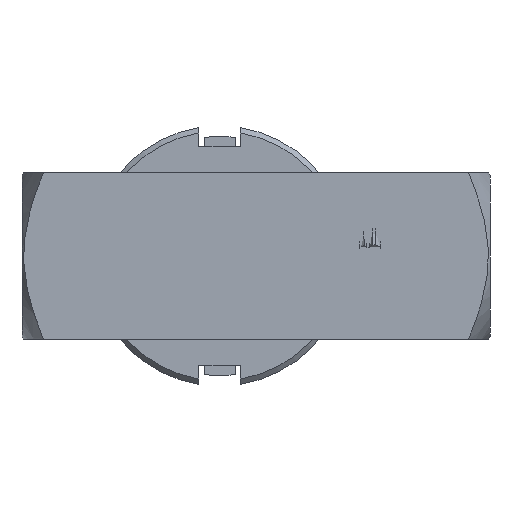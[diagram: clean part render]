
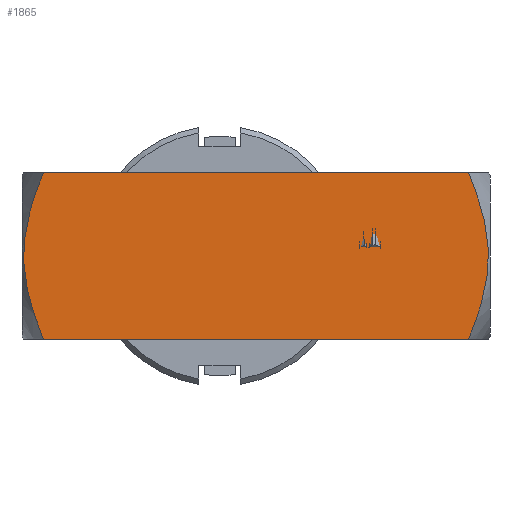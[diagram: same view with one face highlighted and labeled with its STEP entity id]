
A CAD part, front view. The second image highlights one B-rep face of the part: STEP entity #1865.
In plain terms, the highlighted planar face has unit normal (0, -1, 0).
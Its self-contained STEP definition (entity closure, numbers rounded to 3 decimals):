
#390=LINE('',#34944,#655);
#391=LINE('',#34953,#656);
#655=VECTOR('',#7460,1.);
#656=VECTOR('',#7461,1.);
#937=B_SPLINE_CURVE_WITH_KNOTS('',3,(#34936,#34937,#34938,#34939,#34940,
#34941),.UNSPECIFIED.,.F.,.F.,(4,2,4),(0.,0.5,1.),.UNSPECIFIED.);
#938=B_SPLINE_CURVE_WITH_KNOTS('',3,(#34946,#34947,#34948,#34949,#34950,
#34951),.UNSPECIFIED.,.F.,.F.,(4,2,4),(0.,0.5,1.),.UNSPECIFIED.);
#1304=PLANE('',#6385);
#1545=FACE_OUTER_BOUND('',#2341,.T.);
#1865=ADVANCED_FACE('',(#1545),#1304,.F.);
#2341=EDGE_LOOP('',(#3750,#3751,#3752,#3753));
#3750=ORIENTED_EDGE('',*,*,#4790,.F.);
#3751=ORIENTED_EDGE('',*,*,#4791,.T.);
#3752=ORIENTED_EDGE('',*,*,#4792,.F.);
#3753=ORIENTED_EDGE('',*,*,#4793,.F.);
#4790=EDGE_CURVE('',#5878,#5879,#937,.T.);
#4791=EDGE_CURVE('',#5878,#5880,#390,.T.);
#4792=EDGE_CURVE('',#5881,#5880,#938,.T.);
#4793=EDGE_CURVE('',#5879,#5881,#391,.T.);
#5878=VERTEX_POINT('',#34942);
#5879=VERTEX_POINT('',#34943);
#5880=VERTEX_POINT('',#34945);
#5881=VERTEX_POINT('',#34952);
#6385=AXIS2_PLACEMENT_3D('',#34954,#7462,#7463);
#7460=DIRECTION('',(1.,0.,0.));
#7461=DIRECTION('',(1.,0.,0.));
#7462=DIRECTION('',(0.,1.,0.));
#7463=DIRECTION('',(0.,0.,1.));
#34936=CARTESIAN_POINT('',(-25.657,-16.872,37.089));
#34937=CARTESIAN_POINT('',(-26.705,-16.872,39.656));
#34938=CARTESIAN_POINT('',(-27.578,-16.872,42.367));
#34939=CARTESIAN_POINT('',(-27.563,-16.872,47.888));
#34940=CARTESIAN_POINT('',(-26.697,-16.872,50.542));
#34941=CARTESIAN_POINT('',(-25.657,-16.872,53.089));
#34942=CARTESIAN_POINT('',(-25.657,-16.872,37.089));
#34943=CARTESIAN_POINT('',(-25.657,-16.872,53.089));
#34944=CARTESIAN_POINT('',(-27.715,-16.872,37.089));
#34945=CARTESIAN_POINT('',(15.228,-16.872,37.089));
#34946=CARTESIAN_POINT('',(15.228,-16.872,53.089));
#34947=CARTESIAN_POINT('',(16.267,-16.872,50.542));
#34948=CARTESIAN_POINT('',(17.134,-16.872,47.888));
#34949=CARTESIAN_POINT('',(17.148,-16.872,42.361));
#34950=CARTESIAN_POINT('',(16.275,-16.872,39.654));
#34951=CARTESIAN_POINT('',(15.228,-16.872,37.089));
#34952=CARTESIAN_POINT('',(15.228,-16.872,53.089));
#34953=CARTESIAN_POINT('',(-27.715,-16.872,53.089));
#34954=CARTESIAN_POINT('',(-27.715,-16.872,53.089));
